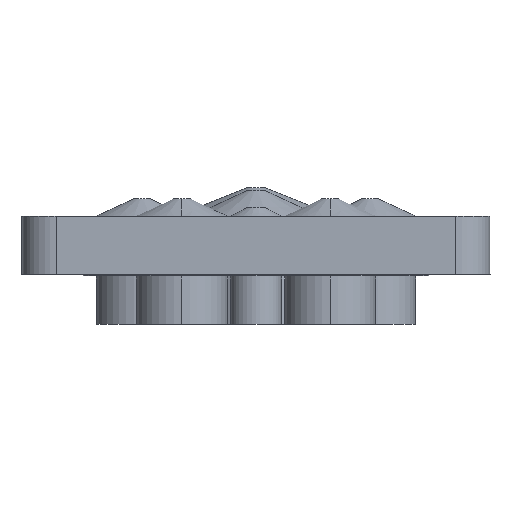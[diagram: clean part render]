
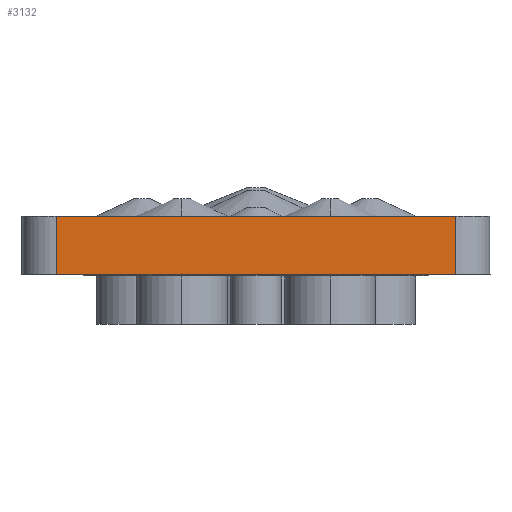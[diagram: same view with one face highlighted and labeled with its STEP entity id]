
A CAD part, left-side view. The second image highlights one B-rep face of the part: STEP entity #3132.
In plain terms, the highlighted planar face has unit normal (-1, 0, 0).
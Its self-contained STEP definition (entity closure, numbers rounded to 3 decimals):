
#93 = VERTEX_POINT ( 'NONE', #7754 ) ;
#158 = CARTESIAN_POINT ( 'NONE',  ( -214., 6., -8. ) ) ;
#160 = CARTESIAN_POINT ( 'NONE',  ( -214., 76., -8. ) ) ;
#163 = DIRECTION ( 'NONE',  ( 0., 0., 1. ) ) ;
#164 = DIRECTION ( 'NONE',  ( 0., 0., 1. ) ) ;
#186 = CARTESIAN_POINT ( 'NONE',  ( -214., 6., -10.2 ) ) ;
#187 = DIRECTION ( 'NONE',  ( 0., 1., 0. ) ) ;
#280 = CARTESIAN_POINT ( 'NONE',  ( -214., 56., 0. ) ) ;
#281 = DIRECTION ( 'NONE',  ( 0., -1., 0. ) ) ;
#628 = LINE ( 'NONE', #158, #633 ) ;
#630 = LINE ( 'NONE', #160, #635 ) ;
#633 = VECTOR ( 'NONE', #163, 1000. ) ;
#635 = VECTOR ( 'NONE', #164, 1000. ) ;
#651 = LINE ( 'NONE', #186, #653 ) ;
#653 = VECTOR ( 'NONE', #187, 1000. ) ;
#685 = LINE ( 'NONE', #280, #687 ) ;
#687 = VECTOR ( 'NONE', #281, 1000. ) ;
#1166 = EDGE_LOOP ( 'NONE', ( #3728, #3729, #3730, #3719 ) ) ;
#1773 = EDGE_CURVE ( 'NONE', #3390, #3357, #628, .T. ) ;
#1774 = EDGE_CURVE ( 'NONE', #93, #3381, #630, .T. ) ;
#1786 = EDGE_CURVE ( 'NONE', #3390, #93, #651, .T. ) ;
#1818 = EDGE_CURVE ( 'NONE', #3381, #3357, #685, .T. ) ;
#3132 = ADVANCED_FACE ( 'NONE', ( #4494 ), #5121, .F. ) ;
#3357 = VERTEX_POINT ( 'NONE', #6107 ) ;
#3381 = VERTEX_POINT ( 'NONE', #6131 ) ;
#3390 = VERTEX_POINT ( 'NONE', #6140 ) ;
#3719 = ORIENTED_EDGE ( 'NONE', *, *, #1773, .T. ) ;
#3728 = ORIENTED_EDGE ( 'NONE', *, *, #1818, .F. ) ;
#3729 = ORIENTED_EDGE ( 'NONE', *, *, #1774, .F. ) ;
#3730 = ORIENTED_EDGE ( 'NONE', *, *, #1786, .F. ) ;
#4494 = FACE_OUTER_BOUND ( 'NONE', #1166, .T. ) ;
#5119 = CARTESIAN_POINT ( 'NONE',  ( -214., 6., -8. ) ) ;
#5121 = PLANE ( 'NONE',  #5320 ) ;
#5124 = DIRECTION ( 'NONE',  ( 1., 0., 0. ) ) ;
#5125 = DIRECTION ( 'NONE',  ( 0., -1., 0. ) ) ;
#5320 = AXIS2_PLACEMENT_3D ( 'NONE', #5119, #5124, #5125 ) ;
#6107 = CARTESIAN_POINT ( 'NONE',  ( -214., 6., 0. ) ) ;
#6131 = CARTESIAN_POINT ( 'NONE',  ( -214., 76., 0. ) ) ;
#6140 = CARTESIAN_POINT ( 'NONE',  ( -214., 6., -10.2 ) ) ;
#7754 = CARTESIAN_POINT ( 'NONE',  ( -214., 76., -10.2 ) ) ;
